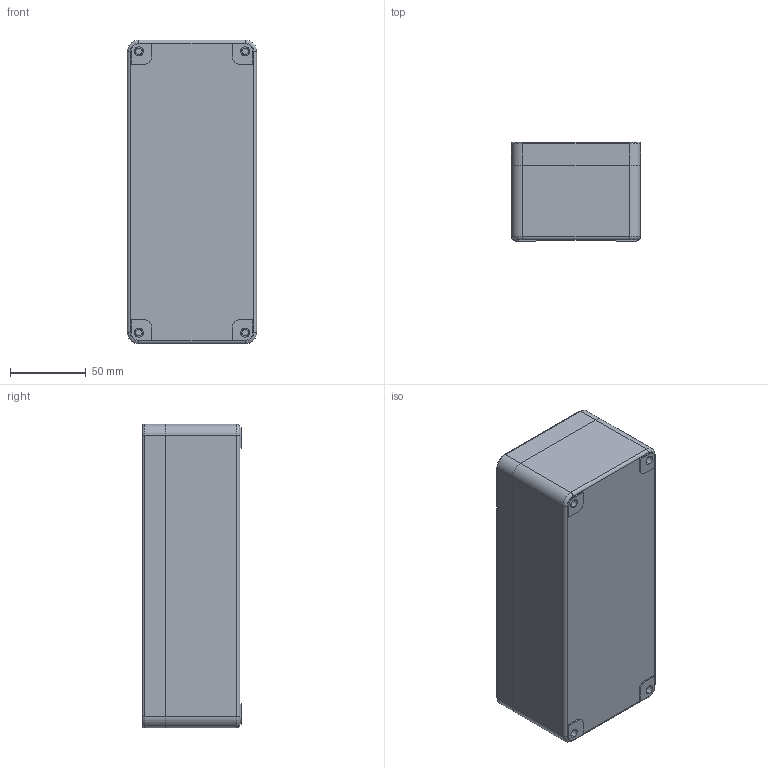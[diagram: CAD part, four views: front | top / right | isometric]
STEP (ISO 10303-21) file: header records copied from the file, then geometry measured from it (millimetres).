
FILE_DESCRIPTION (( 'STEP AP214' ), '1' );
FILE_NAME ('040C0820-6P4C.STEP', '2018-08-16T14:08:08', ( '' ), ( '' ), 'SwSTEP 2.0', 'SolidWorks 2013', '' );
FILE_SCHEMA (( 'AUTOMOTIVE_DESIGN' ));
Length unit declared in the file: millimetre
Products named in the file (1): 040C0820-6P4C
Bounding box: 85 x 65 x 200 mm (x, y, z)
Volume: 217076.8 mm3; surface area: 143001.5 mm2
Topology: 6 solids, 6 shells, 590 faces, 1462 edges, 924 vertices
Faces by surface type: plane 267, cylinder 243, torus 80
Entity records: 23520 total; most frequent: DIRECTION 3191, CARTESIAN_POINT 3025, ORIENTED_EDGE 2924, EDGE_CURVE 1462, AXIS2_PLACEMENT_3D 1154, VERTEX_POINT 924, LINE 883, VECTOR 883
